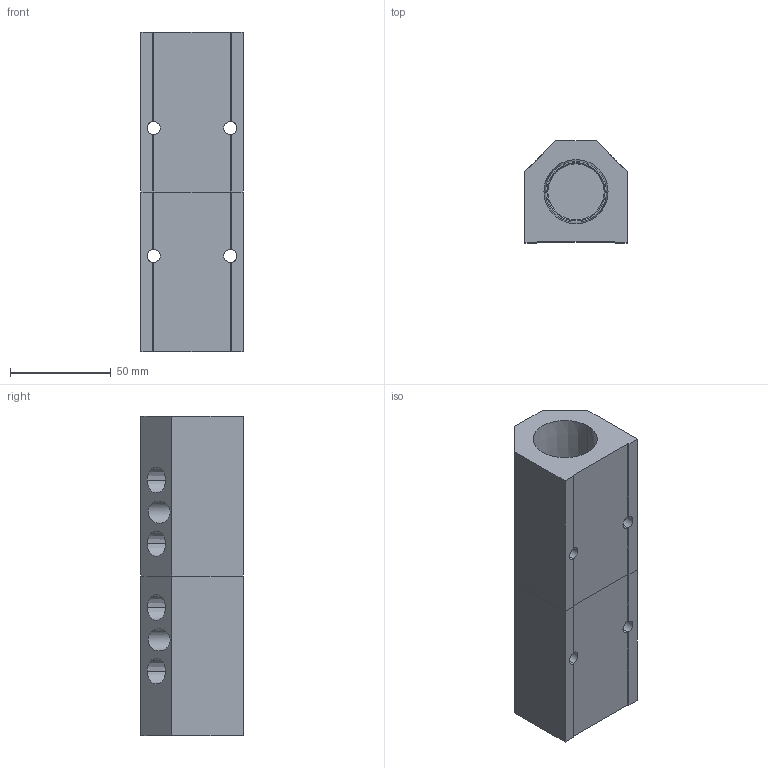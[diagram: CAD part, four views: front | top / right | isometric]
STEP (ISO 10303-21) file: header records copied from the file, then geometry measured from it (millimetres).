
FILE_DESCRIPTION (( 'STEP AP214' ), '1' );
FILE_NAME ('ALM4BD-N4N16-159RB.STEP', '2023-11-02T06:10:53', ( '' ), ( '' ), 'SwSTEP 2.0', 'SolidWorks 2020', '' );
FILE_SCHEMA (( 'AUTOMOTIVE_DESIGN' ));
Length unit declared in the file: millimetre
Products named in the file (1): ALM4BD-N4N16-159RB
Bounding box: 50.8 x 50.8 x 159 mm (x, y, z)
Volume: 247152.2 mm3; surface area: 58028.4 mm2
Topology: 2 solids, 2 shells, 349 faces, 902 edges, 596 vertices
Faces by surface type: plane 243, bspline 58, cone 24, cylinder 24
Entity records: 18123 total; most frequent: CARTESIAN_POINT 6746, ORIENTED_EDGE 1804, DIRECTION 1402, EDGE_CURVE 902, LINE 690, VECTOR 690, VERTEX_POINT 596, EDGE_LOOP 412
